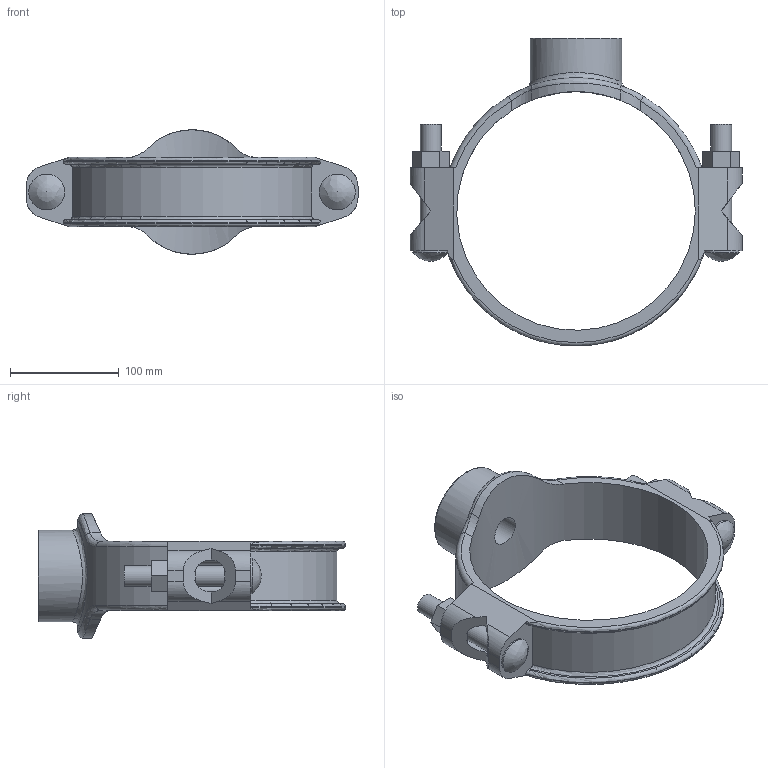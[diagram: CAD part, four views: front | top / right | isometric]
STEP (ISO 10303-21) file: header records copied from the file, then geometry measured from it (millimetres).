
FILE_DESCRIPTION(/* description */ ('VIC SS MECHANICAL T BRANCH OUTLET STYLE 422 (BSPT)','CAx-IF Rec.Pracs.---Representation and Presentation of Product Manufacturing Information (PMI)---4.0---2014-10-13'),/* implementation_level */ '2;1');
FILE_NAME(/* name */ 'C:\Files for Export\422\STEP\Victaulic_SS-OGS_Mech-Tee Out_Style 422 (BSPT)\Victaulic_SS-OGS_Mech-Tee Out_Style 422 (BSPT)_08.0x01.0 (200x25).stp',/* time_stamp */ '2023-03-28T14:27:16+02:00',/* author */ ('jheald'),/* organization */ ('Victaulic'),/* preprocessor_version */ 'ST-DEVELOPER v18.1',/* originating_system */ 'Autodesk Inventor 2020',/* authorisation */ '');
FILE_SCHEMA (('AP242_MANAGED_MODEL_BASED_3D_ENGINEERING_MIM_LF { 1 0 10303 442 1 1 4 }'));
Length unit declared in the file: inch
Products named in the file (1): 422-08.0x01.0
Bounding box: 304.8 x 282.56 x 114.3 mm (x, y, z)
Volume: 925835.1 mm3; surface area: 172753.1 mm2
Topology: 1 solids, 1 shells, 100 faces, 290 edges, 192 vertices
Faces by surface type: plane 48, cylinder 32, torus 11, bspline 9
Full cylindrical faces by diameter (mm): 19.05 x4, 26.987 x1, 33.02 x2, 33.401 x1, 84.074 x1, 219.075 x1
Entity records: 4332 total; most frequent: CARTESIAN_POINT 1472, ORIENTED_EDGE 576, DIRECTION 558, EDGE_CURVE 288, AXIS2_PLACEMENT_3D 206, VERTEX_POINT 192, LINE 146, VECTOR 146
